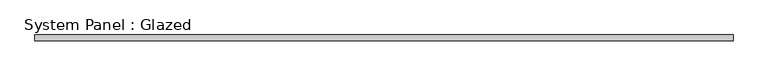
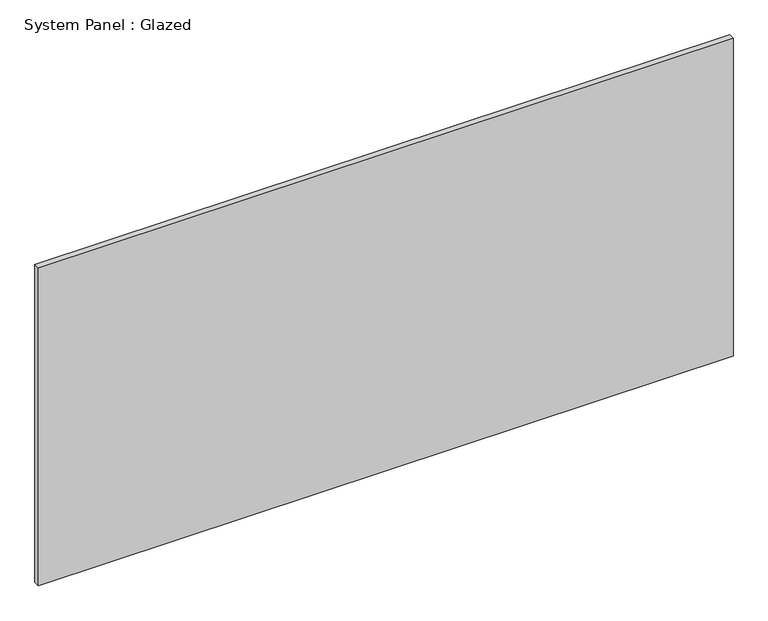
"""IFC4 building model written with IfcOpenShell, lengths in millimetres: plate geometry, System Panel : Glazed."""

from ifc_helpers import new_model, si_unit, origin, origin_with_axes, place, context, project, spatial, polyline, outline, extrude, source, transform, mapped, element, save


def system_panel_glazed_d57e1c1e(model_context):
    return source(origin(), model_context, "Body", "SweptSolid", [
        extrude(outline(polyline([(1476.375, 19.05), (-1476.375, 19.05), (-1476.375, 44.45), (1476.375, 44.45), (1476.375, 19.05)])), origin_with_axes(), (0.0, 0.0, 1.0), 1428.75),
    ])


if __name__ == "__main__":
    model = new_model("IFC4")
    model_context = context("Model", 3, world=origin())
    ifc_project = project(units=[si_unit("LENGTHUNIT", "METRE", prefix="MILLI")], contexts=[model_context])
    site = spatial("IfcSite", under=ifc_project)
    building = spatial("IfcBuilding", under=site)
    placement = place(None, origin())
    system_panel_glazed_shape = system_panel_glazed_d57e1c1e(model_context)
    element("IfcPlate", 1, ObjectType="System Panel : Glazed", at=placement, inside=building, context=model_context, shape_type="MappedRepresentation", body=[
        mapped(system_panel_glazed_shape, transform((0.0, 0.0, 0.0), x_axis=(1.0, 0.0, 0.0), y_axis=(0.0, 1.0, 0.0), z_axis=(0.0, 0.0, 1.0))),
    ])
    save(model, "model.ifc")
